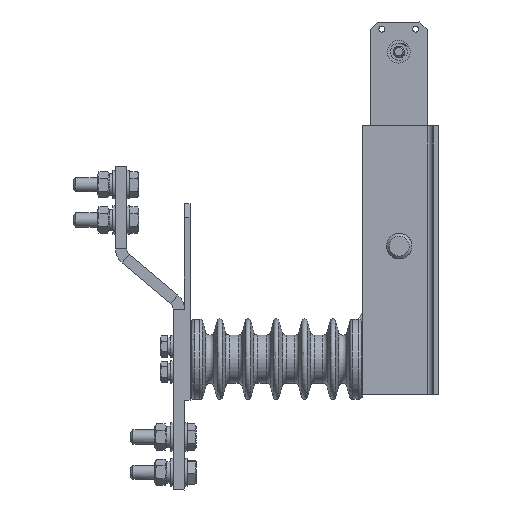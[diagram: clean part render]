
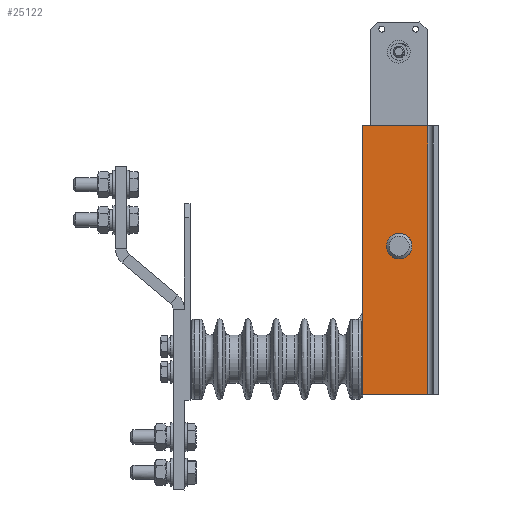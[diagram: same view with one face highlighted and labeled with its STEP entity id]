
A CAD part, left-side view. The second image highlights one B-rep face of the part: STEP entity #25122.
In plain terms, the highlighted planar face has unit normal (-1, 0, 0).
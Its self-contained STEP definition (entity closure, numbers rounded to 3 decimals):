
#434 = VECTOR ( 'NONE', #25110, 1000. ) ;
#2549 = DIRECTION ( 'NONE',  ( 0., -1., 0. ) ) ;
#3817 = CARTESIAN_POINT ( 'NONE',  ( -239.005, 37.004, 9.999 ) ) ;
#6926 = VERTEX_POINT ( 'NONE', #3817 ) ;
#7914 = DIRECTION ( 'NONE',  ( -1., 0., 0. ) ) ;
#9039 = EDGE_CURVE ( 'NONE', #15478, #47108, #23422, .T. ) ;
#9705 = AXIS2_PLACEMENT_3D ( 'NONE', #11554, #24438, #46171 ) ;
#9941 = LINE ( 'NONE', #48933, #54630 ) ;
#11554 = CARTESIAN_POINT ( 'NONE',  ( -239.005, -43.996, -95.001 ) ) ;
#13768 = LINE ( 'NONE', #25480, #21201 ) ;
#15478 = VERTEX_POINT ( 'NONE', #27301 ) ;
#15875 = LINE ( 'NONE', #24331, #47693 ) ;
#15917 = PLANE ( 'NONE',  #9705 ) ;
#16620 = EDGE_CURVE ( 'NONE', #17563, #38200, #9941, .T. ) ;
#17563 = VERTEX_POINT ( 'NONE', #18621 ) ;
#18621 = CARTESIAN_POINT ( 'NONE',  ( -239.005, 54.004, 94.999 ) ) ;
#19287 = ORIENTED_EDGE ( 'NONE', *, *, #33316, .T. ) ;
#21201 = VECTOR ( 'NONE', #51395, 1000. ) ;
#21356 = EDGE_LOOP ( 'NONE', ( #49795 ) ) ;
#23029 = DIRECTION ( 'NONE',  ( 0., 0., -1. ) ) ;
#23422 = LINE ( 'NONE', #55362, #434 ) ;
#23889 = EDGE_CURVE ( 'NONE', #6926, #6926, #46705, .T. ) ;
#24331 = CARTESIAN_POINT ( 'NONE',  ( -239.005, 50.004, -95.001 ) ) ;
#24438 = DIRECTION ( 'NONE',  ( -1., 0., 0. ) ) ;
#25110 = DIRECTION ( 'NONE',  ( 0., 0., 1. ) ) ;
#25122 = ADVANCED_FACE ( 'NONE', ( #37130, #28314 ), #15917, .T. ) ;
#25480 = CARTESIAN_POINT ( 'NONE',  ( -239.005, 8.004, 94.999 ) ) ;
#26908 = ORIENTED_EDGE ( 'NONE', *, *, #9039, .T. ) ;
#27301 = CARTESIAN_POINT ( 'NONE',  ( -239.005, 8.004, -95.001 ) ) ;
#28314 = FACE_OUTER_BOUND ( 'NONE', #36544, .T. ) ;
#33316 = EDGE_CURVE ( 'NONE', #38200, #15478, #15875, .T. ) ;
#33843 = CARTESIAN_POINT ( 'NONE',  ( -239.005, 28.004, 9.999 ) ) ;
#35651 = CARTESIAN_POINT ( 'NONE',  ( -239.005, 54.004, -95.001 ) ) ;
#36544 = EDGE_LOOP ( 'NONE', ( #26908, #50195, #45427, #19287 ) ) ;
#37130 = FACE_BOUND ( 'NONE', #21356, .T. ) ;
#38176 = DIRECTION ( 'NONE',  ( 0., 1., 0. ) ) ;
#38200 = VERTEX_POINT ( 'NONE', #35651 ) ;
#41573 = EDGE_CURVE ( 'NONE', #47108, #17563, #13768, .T. ) ;
#45427 = ORIENTED_EDGE ( 'NONE', *, *, #16620, .T. ) ;
#45914 = AXIS2_PLACEMENT_3D ( 'NONE', #33843, #7914, #38176 ) ;
#46171 = DIRECTION ( 'NONE',  ( 0., 1., 0. ) ) ;
#46705 = CIRCLE ( 'NONE', #45914, 9. ) ;
#47108 = VERTEX_POINT ( 'NONE', #53240 ) ;
#47693 = VECTOR ( 'NONE', #2549, 1000. ) ;
#48933 = CARTESIAN_POINT ( 'NONE',  ( -239.005, 54.004, 94.999 ) ) ;
#49795 = ORIENTED_EDGE ( 'NONE', *, *, #23889, .F. ) ;
#50195 = ORIENTED_EDGE ( 'NONE', *, *, #41573, .T. ) ;
#51395 = DIRECTION ( 'NONE',  ( 0., 1., 0. ) ) ;
#53240 = CARTESIAN_POINT ( 'NONE',  ( -239.005, 8.004, 94.999 ) ) ;
#54630 = VECTOR ( 'NONE', #23029, 1000. ) ;
#55362 = CARTESIAN_POINT ( 'NONE',  ( -239.005, 8.004, -95.001 ) ) ;
